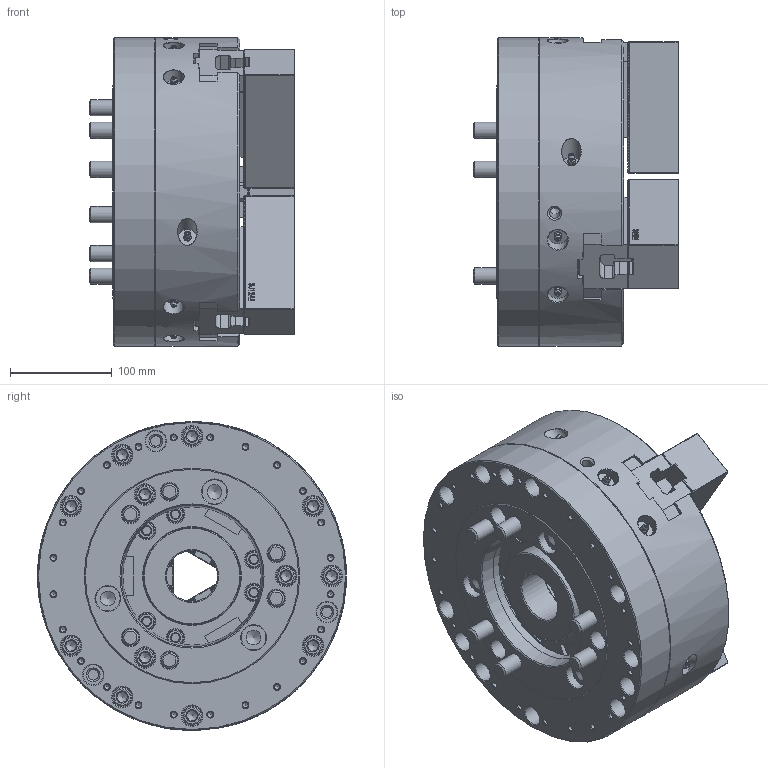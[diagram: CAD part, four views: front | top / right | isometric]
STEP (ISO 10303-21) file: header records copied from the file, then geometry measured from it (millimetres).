
FILE_DESCRIPTION (( 'STEP AP214' ), '1' );
FILE_NAME ('DT1_HOH-12K_OUTSIDE_VIEW_HOL.STEP', '2024-05-09T04:44:19', ( '' ), ( '' ), 'SwSTEP 2.0', 'SolidWorks 2022', '' );
FILE_SCHEMA (( 'AUTOMOTIVE_DESIGN' ));
Length unit declared in the file: millimetre
Products named in the file (9): DT1_HOH-12K_M14x45^DT1_HOH-12K_ﾃﾞﾌｫﾙﾄ; DT1_HOH-12K_OUTSIDE_VIEW_HOL; DT1_HOH-12K_TNUT^DT1_HOH-12K_ﾃﾞﾌｫﾙﾄ; DT1_HOH-12K_SOFTJAW^DT1_HOH-12K_ﾃﾞﾌｫﾙﾄ; Part3^DT1_HOH-12K_ﾃﾞﾌｫﾙﾄ; DT1_HOH-12K_M16x130^DT1_HOH-12K_ﾃﾞﾌｫﾙﾄ; DT1_HOH-12K_M6x12^DT1_HOH-12K_ﾃﾞﾌｫﾙﾄ; DT1_HOH-12K_DRAWNUT^DT1_HOH-12K_ﾃﾞﾌｫﾙﾄ; DT1_HOH-12K_COVER^DT1_HOH-12K_ﾃﾞﾌｫﾙﾄ
Assembly tree (24 placements, depth 2):
  DT1_HOH-12K_OUTSIDE_VIEW_HOL
    DT1_HOH-12K_SOFTJAW^DT1_HOH-12K_ﾃﾞﾌｫﾙﾄ  x3
    DT1_HOH-12K_TNUT^DT1_HOH-12K_ﾃﾞﾌｫﾙﾄ  x3
    DT1_HOH-12K_DRAWNUT^DT1_HOH-12K_ﾃﾞﾌｫﾙﾄ
    DT1_HOH-12K_COVER^DT1_HOH-12K_ﾃﾞﾌｫﾙﾄ
    Part3^DT1_HOH-12K_ﾃﾞﾌｫﾙﾄ
    DT1_HOH-12K_M6x12^DT1_HOH-12K_ﾃﾞﾌｫﾙﾄ  x3
    DT1_HOH-12K_M14x45^DT1_HOH-12K_ﾃﾞﾌｫﾙﾄ  x6
    DT1_HOH-12K_M16x130^DT1_HOH-12K_ﾃﾞﾌｫﾙﾄ  x6
Bounding box: 202 x 304 x 304 mm (x, y, z)
Volume: 9143115.8 mm3; surface area: 790760.8 mm2
Topology: 24 solids, 30 shells, 5360 faces, 15077 edges, 9928 vertices
Faces by surface type: plane 4001, cylinder 679, cone 384, bspline 251, torus 36, sphere 9
Full cylindrical faces by diameter (mm): 2 x9, 5 x3, 5.2 x24, 6 x3, 6.6 x3, 10.22 x3, 10.3 x5, 11 x3, 12 x6, 14 x6, 15 x6, 16 x6, 16.27 x6, 17 x12, 18.27 x12, 19 x3, 20 x21, 21.33 x6, 22 x6, 24.21 x3, 24.33 x6, 25 x6, 50 x1, 78 x1, 83 x2, 89 x1, 95.8 x2, 96 x3, 104.5 x2, 136 x1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
Entity records: 144771 total; most frequent: CARTESIAN_POINT 51644, ORIENTED_EDGE 20466, DIRECTION 16688, EDGE_CURVE 10233, VECTOR 7588, LINE 7588, VERTEX_POINT 6930, AXIS2_PLACEMENT_3D 4550
